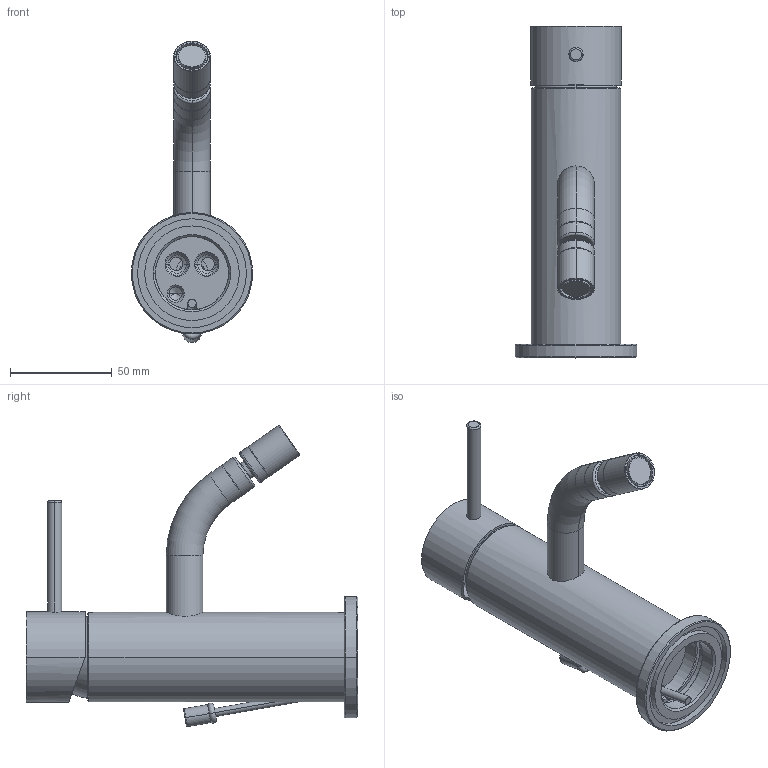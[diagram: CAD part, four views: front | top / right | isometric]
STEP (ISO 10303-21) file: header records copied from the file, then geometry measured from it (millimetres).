
FILE_DESCRIPTION((''),'2;1');
FILE_NAME('F3032_FILE_3D','2016-02-02T',('ivanv'),(''),'CREO PARAMETRIC BY PTC INC, 2015290','CREO PARAMETRIC BY PTC INC, 2015290','');
FILE_SCHEMA(('CONFIG_CONTROL_DESIGN'));
Length unit declared in the file: millimetre
Products named in the file (1): F3032_FILE_3D
Bounding box: 59.7 x 163.1 x 148.17 mm (x, y, z)
Volume: 169612.6 mm3; surface area: 67830.2 mm2
Topology: 3 solids, 3 shells, 565 faces, 1419 edges, 890 vertices
Faces by surface type: plane 329, cylinder 105, cone 73, torus 54, bspline 4
Entity records: 17481 total; most frequent: CARTESIAN_POINT 3782, DIRECTION 2847, ORIENTED_EDGE 2814, EDGE_CURVE 1407, VECTOR 993, LINE 993, AXIS2_PLACEMENT_3D 927, VERTEX_POINT 890
